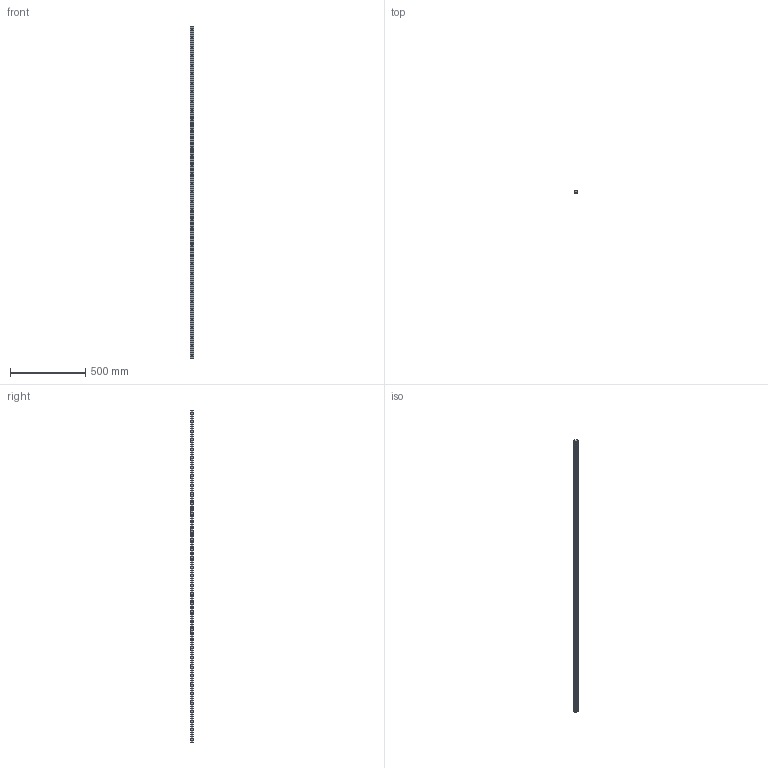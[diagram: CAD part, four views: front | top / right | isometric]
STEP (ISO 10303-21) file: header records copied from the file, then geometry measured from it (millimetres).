
FILE_DESCRIPTION (( 'STEP AP203' ), '1' );
FILE_NAME ('L1016.BL25-2200.step', '2019-06-12T12:10:21', ( '' ), ( '' ), 'SwSTEP 2.0', 'SolidWorks 2017', '' );
FILE_SCHEMA (( 'CONFIG_CONTROL_DESIGN' ));
Length unit declared in the file: millimetre
Products named in the file (1): L1016.BL25-2200
Bounding box: 23 x 19.2 x 2200 mm (x, y, z)
Volume: 810627 mm3; surface area: 208392.1 mm2
Topology: 1 solids, 1 shells, 211 faces, 516 edges, 344 vertices
Faces by surface type: cylinder 152, plane 59
Entity records: 6599 total; most frequent: DIRECTION 1244, CARTESIAN_POINT 1072, ORIENTED_EDGE 1032, AXIS2_PLACEMENT_3D 516, EDGE_CURVE 516, VERTEX_POINT 344, EDGE_LOOP 322, CIRCLE 304
